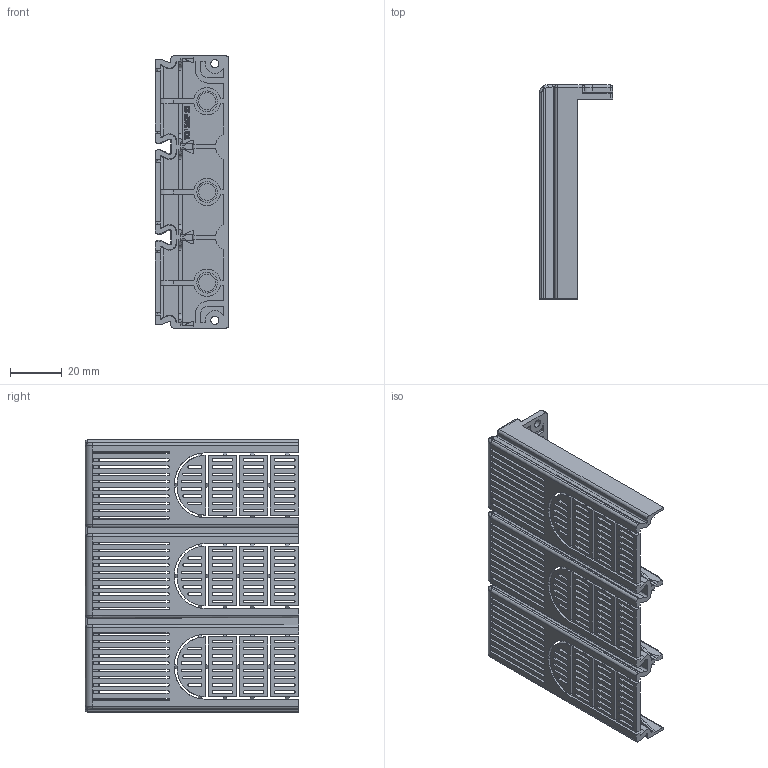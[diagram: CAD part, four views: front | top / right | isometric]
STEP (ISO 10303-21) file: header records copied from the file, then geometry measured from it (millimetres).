
FILE_DESCRIPTION((''),'2;1');
FILE_NAME('U2_3P_SHORT_TERMINAL_COVER','2018-06-04T',('HHI'),(''),'PRO/ENGINEER BY PARAMETRIC TECHNOLOGY CORPORATION, 2012453','PRO/ENGINEER BY PARAMETRIC TECHNOLOGY CORPORATION, 2012453','');
FILE_SCHEMA(('CONFIG_CONTROL_DESIGN'));
Length unit declared in the file: millimetre
Products named in the file (1): U2_3P_SHORT_TERMINAL_COVER
Bounding box: 28.3 x 82.5 x 105 mm (x, y, z)
Volume: 32278.5 mm3; surface area: 43147.8 mm2
Topology: 1 solids, 1 shells, 1402 faces, 4120 edges, 2660 vertices
Faces by surface type: plane 666, cylinder 469, extrusion 127, torus 56, bspline 46, cone 26, sphere 12
Entity records: 49350 total; most frequent: CARTESIAN_POINT 11543, ORIENTED_EDGE 8240, DIRECTION 7395, EDGE_CURVE 4120, VECTOR 2751, VERTEX_POINT 2660, LINE 2624, AXIS2_PLACEMENT_3D 2322
